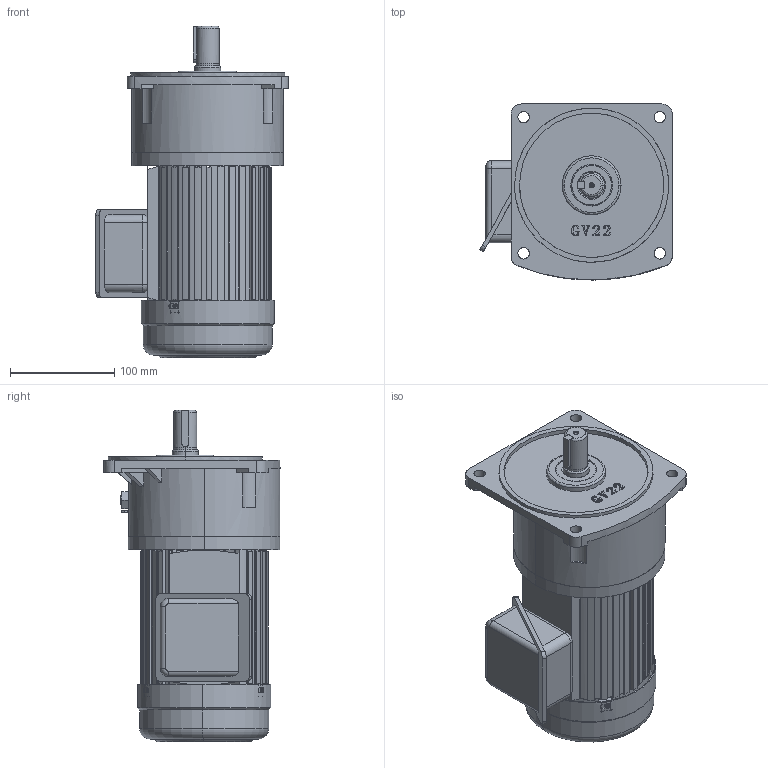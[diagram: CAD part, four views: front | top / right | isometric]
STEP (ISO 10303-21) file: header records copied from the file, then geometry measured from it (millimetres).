
FILE_DESCRIPTION (( 'STEP AP203' ), '1' );
FILE_NAME ('22轴 立式 200w三相 .STEP', '2017-11-08T02:30:02', ( '微软用户' ), ( '微软中国' ), 'SwSTEP 2.0', 'SolidWorks 2014', '' );
FILE_SCHEMA (( 'CONFIG_CONTROL_DESIGN' ));
Length unit declared in the file: millimetre
Products named in the file (1): 22轴  立式 200w三相 
Bounding box: 185.11 x 169.17 x 318.37 mm (x, y, z)
Surface area: 269616.2 mm2 (no closed solid volume)
Topology: 0 solids, 66 shells, 726 faces, 2536 edges, 1876 vertices
Faces by surface type: plane 385, cylinder 252, bspline 61, torus 16, cone 12
Entity records: 51839 total; most frequent: CARTESIAN_POINT 31903, ORIENTED_EDGE 3875, DIRECTION 3443, EDGE_CURVE 2536, VERTEX_POINT 1876, LINE 1459, VECTOR 1459, AXIS2_PLACEMENT_3D 992
